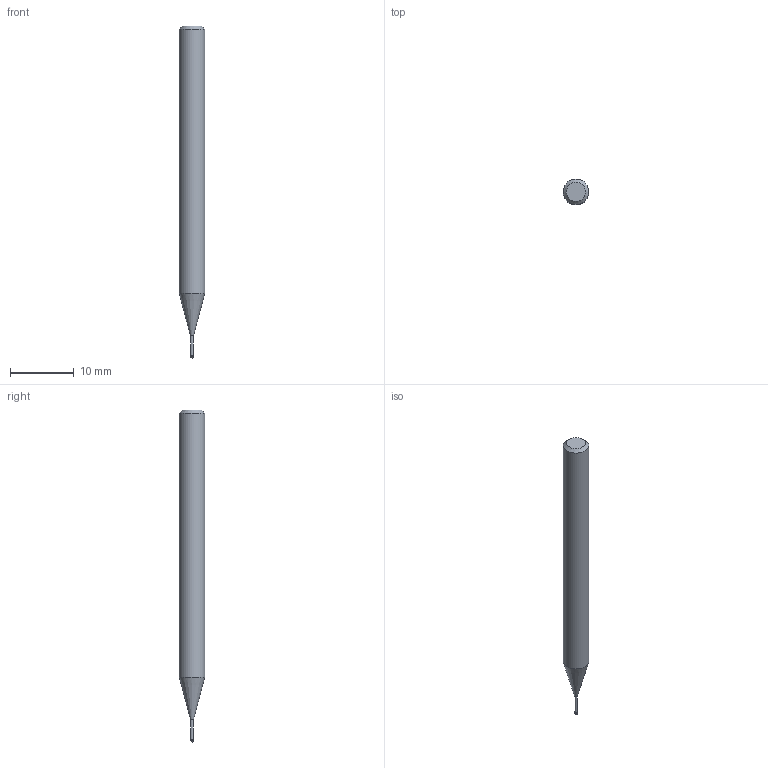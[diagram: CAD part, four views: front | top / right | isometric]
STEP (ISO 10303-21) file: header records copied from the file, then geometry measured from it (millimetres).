
FILE_DESCRIPTION((''),'2;1');
FILE_NAME('C:\Users\nsx150\AppData\Local\Temp\Mastercam 2021\LJSIDMOTM8\TEMP.step','2021-08-03T14:23:53',(''),(''),'STEP Write','Mastercam 2021 ... CNC Software, Inc.','');
FILE_SCHEMA(('AUTOMOTIVE_DESIGN'));
Length unit declared in the file: millimetre
Products named in the file (1): None
Bounding box: 4 x 4 x 52 mm (x, y, z)
Volume: 556.8 mm3; surface area: 588.4 mm2
Topology: 2 solids, 2 shells, 9 faces, 14 edges, 8 vertices
Faces by surface type: plane 3, cylinder 3, cone 2, sphere 1
Full cylindrical faces by diameter (mm): 0.46 x1, 0.5 x1, 4 x1
Entity records: 211 total; most frequent: DIRECTION 36, CARTESIAN_POINT 25, AXIS2_PLACEMENT_3D 18, ORIENTED_EDGE 14, EDGE_LOOP 14, STYLED_ITEM 12, ADVANCED_FACE 9, FACE_BOUND 8
